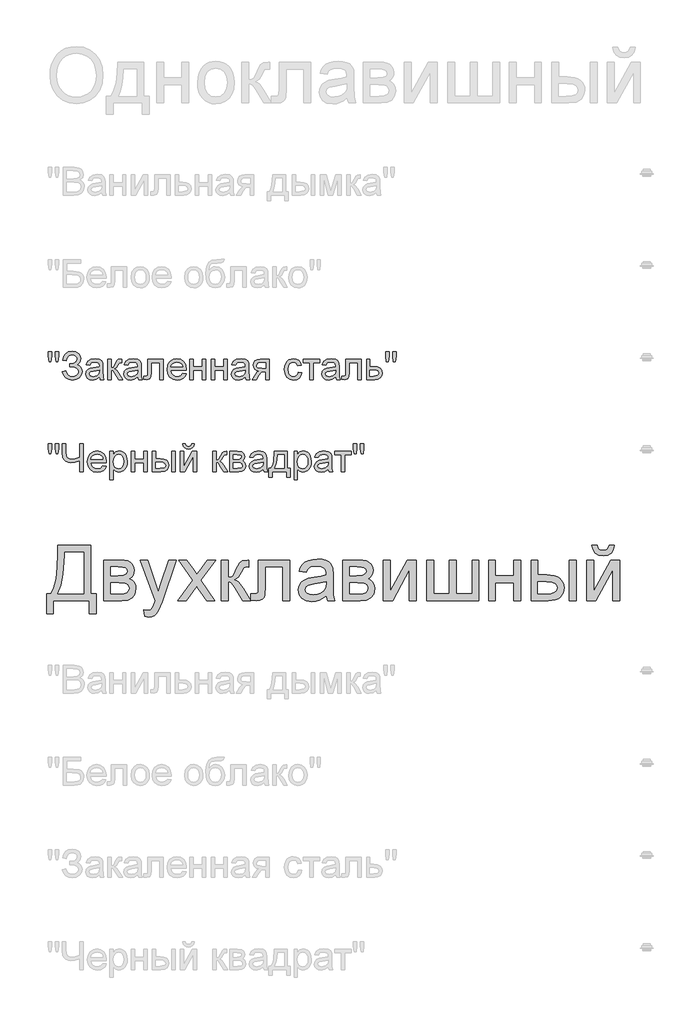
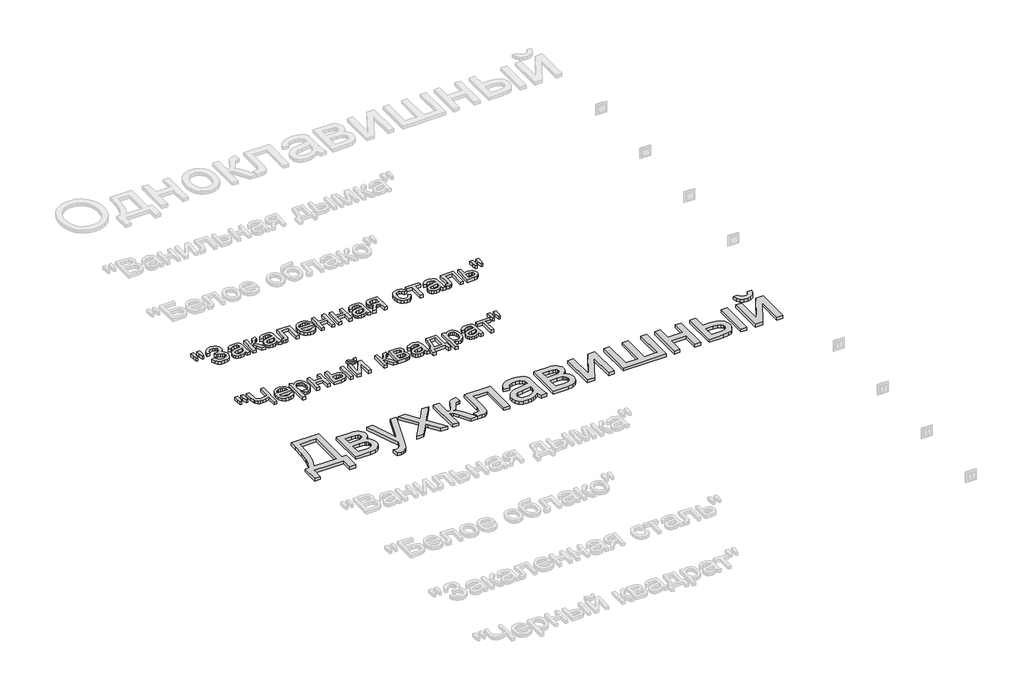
# One storey, part 135 of 168: 3 proxies.
"""IFC4 building model written with IfcOpenShell, lengths in millimetres."""

from ifc_helpers import new_model, si_unit, origin, origin_with_axes, place, context, project, spatial, polyline, outline, extrude, element, save

model = new_model("IFC4")

# Units and contexts
model_context = context("Model", 3, world=origin())
ifc_project = project(units=[si_unit("LENGTHUNIT", "METRE", prefix="MILLI")], contexts=[model_context])

# Site, building, storey
site = spatial("IfcSite", under=ifc_project)
building = spatial("IfcBuilding", under=site)
storey = spatial("IfcBuildingStorey", under=building, Name="Этаж 01", Elevation=0.0)

# Proxies
placement = place(None, origin())
element("IfcBuildingElementProxy", 1, Name="300 мм Arial 2", ObjectType="300 мм Arial 2", at=placement, inside=storey, context=model_context, shape_type="SweptSolid", body=[
    extrude(outline(polyline([(63627.3478389, -23247.0367511), (63806.2856413, -23247.0367511), (63806.2856413, -23510.7345653), (63834.5389786, -23510.7345653), (63834.5389786, -23619.0390246), (63796.8678623, -23619.0390246), (63796.8678623, -23548.4056816), (63603.8033912, -23548.4056816), (63603.8033912, -23619.0390246), (63566.1322749, -23619.0390246), (63566.1322749, -23510.7345653), (63589.6767226, -23510.7345653), (63606.157836, -23476.5629264), (63617.9300598, -23428.4945452), (63624.9933941, -23366.5294217), (63627.3478389, -23290.6675557), (63627.3478389, -23247.0367511)]), holes=[polyline([(63768.614525, -23284.7078674), (63665.0189552, -23284.7078674), (63665.0189552, -23299.8646056), (63657.3670097, -23403.0922935), (63646.0362442, -23462.744359), (63627.3478389, -23510.7345653), (63768.614525, -23510.7345653), (63768.614525, -23284.7078674)])]), origin_with_axes(), (0.0, 0.0, 1.0), 20.0),
    extrude(outline(polyline([(63876.9189844, -23327.0878733), (63959.9131625, -23327.0878733), (63986.5938042, -23328.3478691), (64005.4201653, -23332.1278566), (64019.2709224, -23339.2647673), (64031.0247522, -23350.5955328), (64039.0537767, -23365.3567978), (64041.7301183, -23382.7852073), (64040.1114375, -23396.8291025), (64035.2553951, -23408.9416172), (64027.1435971, -23419.1779337), (64015.7576494, -23427.5932344), (64029.700377, -23435.4199238), (64041.0679307, -23448.0106851), (64048.6279057, -23464.3722368), (64051.1478973, -23483.5112976), (64044.7651447, -23512.2244873), (64029.5900124, -23532.439603), (64005.5673181, -23544.4141619), (63972.6418796, -23548.4056816), (63876.9189844, -23548.4056816), (63876.9189844, -23327.0878733)]), holes=[polyline([(63914.5901007, -23411.847885), (63951.8197586, -23411.847885), (63982.5379052, -23409.9348986), (63997.4739142, -23402.2829531), (64002.41273, -23395.9553828), (64004.0590019, -23388.4505901), (64001.1711283, -23377.2117951), (63992.5075073, -23369.9829139), (63976.8541284, -23366.0649707), (63952.996981, -23364.7589896), (63914.5901007, -23364.7589896), (63914.5901007, -23411.847885)]), polyline([(63914.5901007, -23510.7345653), (63960.7960793, -23510.7345653), (63985.9776019, -23509.033111), (64001.7781336, -23503.9287484), (64010.2578136, -23494.648925), (64013.476781, -23480.4210889), (64011.8672973, -23470.9941127), (64007.0388461, -23462.2845065), (63999.6260239, -23455.4694925), (63990.2634271, -23451.7262932), (63957.1172594, -23449.5190013), (63914.5901007, -23449.5190013), (63914.5901007, -23510.7345653)])]), origin_with_axes(), (0.0, 0.0, 1.0), 20.0),
    extrude(outline(polyline([(64098.2367927, -23633.1656933), (64093.5279032, -23596.8925285), (64112.6577669, -23600.2034665), (64130.5368319, -23596.0463999), (64141.4997153, -23584.4581171), (64151.8004112, -23556.7198147), (64154.7434672, -23547.5963412), (64074.692345, -23327.0878733), (64114.4236005, -23327.0878733), (64156.8771827, -23449.9604597), (64171.666039, -23499.1094942), (64186.4548952, -23455.6994188), (64230.0856998, -23327.0878733), (64269.5226497, -23327.0878733), (64192.4881599, -23553.7031823), (64172.4753793, -23602.8522169), (64162.2298658, -23618.5423839), (64150.6231888, -23629.4132969), (64137.1403137, -23635.7592613), (64121.2662056, -23637.8745828), (64098.2367927, -23633.1656933)])), origin_with_axes(), (0.0, 0.0, 1.0), 20.0),
    extrude(outline(polyline([(64277.1745952, -23548.4056816), (64357.6671757, -23437.1581662), (64281.8834847, -23327.0878733), (64327.2065465, -23327.0878733), (64363.7740168, -23380.0628806), (64380.8437414, -23405.0788562), (64395.6325976, -23384.6246173), (64437.2768395, -23327.0878733), (64482.5999013, -23327.0878733), (64402.9902375, -23437.1581662), (64479.6568453, -23548.4056816), (64434.3337835, -23548.4056816), (64388.2013813, -23481.5247348), (64379.7400954, -23469.3110526), (64322.497657, -23548.4056816), (64277.1745952, -23548.4056816)])), origin_with_axes(), (0.0, 0.0, 1.0), 20.0),
    extrude(outline(polyline([(64715.1013222, -23327.0878733), (64884.6213456, -23327.0878733), (64884.6213456, -23548.1849524), (64846.9502293, -23548.1849524), (64846.9502293, -23364.7589896), (64752.7724385, -23364.7589896), (64752.7724385, -23470.3411222), (64750.2340528, -23519.0486984), (64745.479178, -23530.0759612), (64736.2913251, -23539.6133019), (64722.3485975, -23546.2075866), (64703.3290984, -23548.4056816), (64672.7213164, -23546.4926952), (64672.7213164, -23510.7345653), (64689.5703118, -23510.7345653), (64706.6032481, -23508.4169087), (64713.409065, -23501.0592688), (64715.1013222, -23468.2074066), (64715.1013222, -23327.0878733)])), origin_with_axes(), (0.0, 0.0, 1.0), 20.0),
    extrude(outline(polyline([(64512.6190721, -23327.0878733), (64550.2901884, -23327.0878733), (64550.2901884, -23421.265664), (64565.6124735, -23419.5734069), (64575.5268933, -23414.4966353), (64584.3008788, -23401.2528835), (64596.2018614, -23375.0596854), (64613.3819506, -23341.0306009), (64628.5386888, -23329.9573528), (64656.0930502, -23327.0878733), (64663.3035373, -23327.0878733), (64663.3035373, -23364.9797188), (64653.1499942, -23364.7589896), (64634.7558945, -23368.7321151), (64621.8064482, -23393.5273616), (64606.6129218, -23420.345959), (64585.3125543, -23433.4793463), (64597.2503251, -23438.7814455), (64609.0777312, -23448.1394438), (64632.4014497, -23479.0231373), (64672.7213164, -23548.4056816), (64629.8998521, -23548.4056816), (64590.3893259, -23480.4946653), (64570.5236981, -23451.7630814), (64561.2346777, -23446.5483542), (64550.2901884, -23444.8101117), (64550.2901884, -23548.4056816), (64512.6190721, -23548.4056816), (64512.6190721, -23327.0878733)])), origin_with_axes(), (0.0, 0.0, 1.0), 20.0),
    extrude(outline(polyline([(65082.3947062, -23520.1523443), (65064.3960796, -23535.584994), (65045.8640241, -23545.6833548), (65026.3754754, -23551.256767), (65005.5073692, -23553.1145711), (64974.0258675, -23548.6448049), (64950.8033165, -23535.2355061), (64936.4835099, -23514.8732377), (64931.710241, -23489.5445623), (64933.5128628, -23473.9279716), (64938.9207281, -23459.7461207), (64947.2624523, -23447.6060149), (64957.8666508, -23438.1146594), (64984.2437899, -23425.7538244), (65016.8381347, -23420.0884417), (65055.3553796, -23414.1287533), (65082.173977, -23407.1389954), (65082.3947062, -23398.7512859), (65079.8011381, -23381.9390788), (65072.0204339, -23370.9394071), (65054.6196156, -23362.7724268), (65030.3761921, -23360.0501), (65007.9353904, -23361.8619189), (64992.2636174, -23367.2973753), (64981.5766454, -23377.3497509), (64974.0902468, -23393.0123268), (64936.4191305, -23388.3034373), (64942.958233, -23367.7020455), (64952.7163029, -23351.5152378), (64966.6038482, -23339.1360086), (64985.5313769, -23329.9573528), (65008.6803514, -23324.273576), (65035.2322344, -23322.3789837), (65060.6988655, -23324.0528468), (65080.88639, -23329.074436), (65096.1075076, -23336.625214), (65106.6749179, -23345.8866432), (65113.6830699, -23357.3369703), (65118.2264125, -23371.4544419), (65120.0658225, -23404.4166687), (65120.0658225, -23451.2848348), (65121.9788089, -23516.7310418), (65129.4836016, -23548.4056816), (65091.8124853, -23548.4056816), (65082.3947062, -23520.1523443)]), holes=[polyline([(65082.3947062, -23444.8101117), (65021.6206006, -23456.3616064), (64989.2101968, -23462.4684475), (64974.5317052, -23472.4012614), (64969.3813573, -23486.895812), (64972.1864575, -23498.0978187), (64980.6017581, -23507.2764745), (64994.4433182, -23513.4017097), (65013.5271967, -23515.4434548), (65033.7607064, -23513.1901776), (65051.6397714, -23506.4303459), (65066.134322, -23496.4699409), (65076.2142887, -23484.6149436), (65080.6840549, -23472.4012614), (65082.173977, -23455.4786896), (65082.3947062, -23444.8101117)])]), origin_with_axes(), (0.0, 0.0, 1.0), 20.0),
    extrude(outline(polyline([(65171.8636074, -23327.0878733), (65254.8577855, -23327.0878733), (65281.5384272, -23328.3478691), (65300.3647884, -23332.1278566), (65314.2155455, -23339.2647673), (65325.9693752, -23350.5955328), (65333.9983998, -23365.3567978), (65336.6747413, -23382.7852073), (65335.0560605, -23396.8291025), (65330.2000182, -23408.9416172), (65322.0882202, -23419.1779337), (65310.7022724, -23427.5932344), (65324.645, -23435.4199238), (65336.0125537, -23448.0106851), (65343.5725287, -23464.3722368), (65346.0925204, -23483.5112976), (65339.7097677, -23512.2244873), (65324.5346354, -23532.439603), (65300.5119412, -23544.4141619), (65267.5865026, -23548.4056816), (65171.8636074, -23548.4056816), (65171.8636074, -23327.0878733)]), holes=[polyline([(65209.5347237, -23510.7345653), (65255.7407023, -23510.7345653), (65280.9222249, -23509.033111), (65296.7227566, -23503.9287484), (65305.2024366, -23494.648925), (65308.421404, -23480.4210889), (65306.8119203, -23470.9941127), (65301.9834691, -23462.2845065), (65294.5706469, -23455.4694925), (65285.2080502, -23451.7262932), (65252.0618824, -23449.5190013), (65209.5347237, -23449.5190013), (65209.5347237, -23510.7345653)]), polyline([(65209.5347237, -23411.847885), (65246.7643817, -23411.847885), (65277.4825283, -23409.9348986), (65292.4185373, -23402.2829531), (65297.357353, -23395.9553828), (65299.003625, -23388.4505901), (65296.1157513, -23377.2117951), (65287.4521303, -23369.9829139), (65271.7987514, -23366.0649707), (65247.941604, -23364.7589896), (65209.5347237, -23364.7589896), (65209.5347237, -23411.847885)])]), origin_with_axes(), (0.0, 0.0, 1.0), 20.0),
    extrude(outline(polyline([(65393.1814157, -23327.0878733), (65430.852532, -23327.0878733), (65430.852532, -23495.8721327), (65523.411642, -23327.0878733), (65572.1192182, -23327.0878733), (65572.1192182, -23548.4056816), (65534.4481019, -23548.4056816), (65534.4481019, -23380.6514918), (65442.4776031, -23548.4056816), (65393.1814157, -23548.4056816), (65393.1814157, -23327.0878733)])), origin_with_axes(), (0.0, 0.0, 1.0), 20.0),
    extrude(outline(polyline([(65628.6258926, -23327.0878733), (65666.297009, -23327.0878733), (65666.297009, -23510.7345653), (65751.0570206, -23510.7345653), (65751.0570206, -23327.0878733), (65788.728137, -23327.0878733), (65788.728137, -23510.7345653), (65873.4881486, -23510.7345653), (65873.4881486, -23327.0878733), (65911.1592649, -23327.0878733), (65911.1592649, -23548.4056816), (65628.6258926, -23548.4056816), (65628.6258926, -23327.0878733)])), origin_with_axes(), (0.0, 0.0, 1.0), 20.0),
    extrude(outline(polyline([(65962.9570499, -23327.0878733), (66000.6281662, -23327.0878733), (66000.6281662, -23411.847885), (66099.5148465, -23411.847885), (66099.5148465, -23327.0878733), (66137.1859628, -23327.0878733), (66137.1859628, -23548.4056816), (66099.5148465, -23548.4056816), (66099.5148465, -23449.5190013), (66000.6281662, -23449.5190013), (66000.6281662, -23548.4056816), (65962.9570499, -23548.4056816), (65962.9570499, -23327.0878733)])), origin_with_axes(), (0.0, 0.0, 1.0), 20.0),
    extrude(outline(polyline([(66400.8837769, -23327.0878733), (66438.5548932, -23327.0878733), (66438.5548932, -23548.4056816), (66400.8837769, -23548.4056816), (66400.8837769, -23327.0878733)])), origin_with_axes(), (0.0, 0.0, 1.0), 20.0),
    extrude(outline(polyline([(66193.6926372, -23327.0878733), (66231.3637535, -23327.0878733), (66231.3637535, -23407.1389954), (66277.9376141, -23407.1389954), (66318.1931015, -23411.857082), (66334.4097997, -23417.7546902), (66348.0191342, -23426.0113418), (66358.7865804, -23436.3419281), (66366.4776133, -23448.4613405), (66371.0922331, -23462.3695792), (66372.6304397, -23478.0666441), (66367.4708947, -23505.0231973), (66351.9922598, -23527.7675016), (66340.1303647, -23536.7967054), (66325.1828594, -23543.2461366), (66286.031018, -23548.4056816), (66193.6926372, -23548.4056816), (66193.6926372, -23327.0878733)]), holes=[polyline([(66231.3637535, -23510.7345653), (66270.0649394, -23510.7345653), (66300.0657161, -23508.7571995), (66320.0233144, -23502.8251024), (66331.2253211, -23492.6991504), (66334.9593234, -23478.1402205), (66332.1910114, -23465.8345678), (66323.8860753, -23454.9636548), (66306.126572, -23447.3484975), (66274.9945582, -23444.8101117), (66231.3637535, -23444.8101117), (66231.3637535, -23510.7345653)])]), origin_with_axes(), (0.0, 0.0, 1.0), 20.0),
    extrude(outline(polyline([(66495.0615677, -23327.0878733), (66532.732684, -23327.0878733), (66532.732684, -23495.8721327), (66625.291794, -23327.0878733), (66673.9993701, -23327.0878733), (66673.9993701, -23548.4056816), (66636.3282538, -23548.4056816), (66636.3282538, -23380.6514918), (66544.357755, -23548.4056816), (66495.0615677, -23548.4056816), (66495.0615677, -23327.0878733)])), origin_with_axes(), (0.0, 0.0, 1.0), 20.0),
    extrude(outline(polyline([(66617.4926957, -23247.0367511), (66645.7460329, -23247.0367511), (66639.6667829, -23271.160613), (66627.4622978, -23288.9385104), (66609.6844003, -23299.8921968), (66586.8849137, -23303.5434256), (66562.1448495, -23299.9197879), (66542.9598035, -23289.048875), (66529.8448103, -23271.2985687), (66523.3149049, -23247.0367511), (66551.5682421, -23247.0367511), (66555.5413677, -23259.4435714), (66562.1632436, -23268.2635422), (66571.4706581, -23273.5334518), (66583.5003993, -23275.2900883), (66597.075245, -23273.5886341), (66606.8976942, -23268.4842714), (66613.5195701, -23259.7194829), (66617.4926957, -23247.0367511)])), origin_with_axes(), (0.0, 0.0, 1.0), 20.0),
])
element("IfcBuildingElementProxy", 2, Name="150", ObjectType="150", at=placement, inside=storey, context=model_context, shape_type="SweptSolid", body=[
    extrude(outline(polyline([(63580.1485789, -22251.873446), (63575.550054, -22222.7739802), (63575.550054, -22197.7212163), (63594.3856121, -22197.7212163), (63594.3856121, -22222.7739802), (63590.2653338, -22251.873446), (63580.1485789, -22251.873446)])), origin_with_axes(), (0.0, 0.0, 1.0), 20.0),
    extrude(outline(polyline([(63617.7093306, -22251.873446), (63613.2211703, -22222.7739802), (63613.2211703, -22197.7212163), (63632.0567284, -22197.7212163), (63632.0567284, -22222.7739802), (63627.6421445, -22251.873446), (63617.7093306, -22251.873446)])), origin_with_axes(), (0.0, 0.0, 1.0), 20.0),
    extrude(outline(polyline([(63650.8922866, -22306.0256757), (63669.7278447, -22301.3167862), (63681.2977335, -22321.7158428), (63692.2284273, -22329.3723868), (63706.2217387, -22331.9245682), (63720.398991, -22330.0069833), (63731.2193202, -22324.2542286), (63738.0757209, -22315.7883442), (63740.3611878, -22305.7313701), (63737.8641888, -22295.1961495), (63730.3731916, -22287.0613589), (63718.5779752, -22281.8604272), (63703.1683181, -22280.1267833), (63693.2722924, -22280.1267833), (63693.2722924, -22261.2912251), (63714.591054, -22259.7645148), (63727.6324708, -22251.9654165), (63733.2978535, -22237.7099892), (63731.4124583, -22228.8394346), (63725.7562726, -22221.2104817), (63716.8811195, -22215.9543677), (63705.3388219, -22214.2023297), (63686.1169876, -22219.591801), (63675.117316, -22233.8840165), (63672.0822895, -22247.1645565), (63653.2467313, -22242.455667), (63659.0983543, -22221.8542752), (63669.7002536, -22207.1389954), (63685.0524291, -22198.3098275), (63705.1548809, -22195.3667716), (63724.5468605, -22198.4247907), (63739.4598769, -22207.5988479), (63748.965028, -22220.8655924), (63752.1334117, -22236.201673), (63747.2037929, -22254.8440931), (63732.4149367, -22268.7592296), (63742.8903765, -22273.5830823), (63751.5080123, -22281.7270699), (63757.2745625, -22292.4922168), (63759.196746, -22305.1795471), (63755.508729, -22323.0172254), (63744.444678, -22337.6819214), (63727.2921799, -22347.4905751), (63705.3388219, -22350.7601263), (63686.2365493, -22347.9642232), (63670.7947025, -22339.5765137), (63659.0132816, -22325.5969979), (63650.8922866, -22306.0256757)])), origin_with_axes(), (0.0, 0.0, 1.0), 20.0),
    extrude(outline(polyline([(63853.3745367, -22334.279013), (63835.1091957, -22347.0445182), (63814.9308682, -22350.7601263), (63799.1901174, -22348.5252432), (63787.5788419, -22341.8205939), (63780.4189386, -22331.6394596), (63778.0323041, -22318.975122), (63781.6375477, -22304.0759012), (63791.110509, -22293.2601705), (63804.2990786, -22287.079753), (63820.596251, -22284.2470616), (63853.2641721, -22277.7723385), (63853.3745367, -22273.5784838), (63852.0777527, -22265.1723802), (63848.1874006, -22259.6725443), (63839.4869914, -22255.5890542), (63827.3652797, -22254.2278908), (63808.3089923, -22257.8515285), (63799.222307, -22270.7090042), (63780.3867489, -22268.3545594), (63788.5353351, -22249.9604597), (63804.9428721, -22239.1815172), (63829.7933008, -22235.3923327), (63852.6203786, -22238.7400588), (63865.5146426, -22247.1461624), (63871.2903899, -22259.9300617), (63872.2100949, -22276.4111751), (63872.2100949, -22299.8452582), (63873.1665881, -22332.5683617), (63876.9189844, -22348.4056816), (63858.0834263, -22348.4056816), (63853.3745367, -22334.279013)]), holes=[polyline([(63853.3745367, -22296.6078966), (63822.9874839, -22302.383644), (63806.782282, -22305.4370645), (63799.4430362, -22310.4034715), (63796.8678623, -22317.6507468), (63802.4780627, -22327.841078), (63818.940782, -22331.9245682), (63837.9970693, -22327.4180137), (63850.284328, -22316.5103126), (63853.2641721, -22301.9421856), (63853.3745367, -22296.6078966)])]), origin_with_axes(), (0.0, 0.0, 1.0), 20.0),
    extrude(outline(polyline([(63898.1089873, -22237.7467774), (63916.9445455, -22237.7467774), (63916.9445455, -22284.8356728), (63929.5628979, -22281.4511584), (63939.900382, -22261.7326835), (63948.4904266, -22244.7181412), (63956.0687957, -22239.1815172), (63969.8459764, -22237.7467774), (63973.4512199, -22237.7467774), (63973.4512199, -22256.6927002), (63968.3744484, -22256.5823356), (63959.1773985, -22258.5688983), (63952.7026754, -22270.9665216), (63945.1059122, -22284.3758203), (63934.4557285, -22290.9425139), (63946.3383169, -22298.2725627), (63958.0001762, -22313.7144094), (63978.1601095, -22348.4056816), (63956.7493774, -22348.4056816), (63936.9941142, -22314.4501734), (63927.0613004, -22300.0843815), (63916.9445455, -22296.6078966), (63916.9445455, -22348.4056816), (63898.1089873, -22348.4056816), (63898.1089873, -22237.7467774)])), origin_with_axes(), (0.0, 0.0, 1.0), 20.0),
    extrude(outline(polyline([(64060.5656764, -22334.279013), (64042.3003353, -22347.0445182), (64022.1220079, -22350.7601263), (64006.381257, -22348.5252432), (63994.7699816, -22341.8205939), (63987.6100782, -22331.6394596), (63985.2234438, -22318.975122), (63988.8286873, -22304.0759012), (63998.3016487, -22293.2601705), (64011.4902183, -22287.079753), (64027.7873906, -22284.2470616), (64060.4553118, -22277.7723385), (64060.5656764, -22273.5784838), (64059.2688924, -22265.1723802), (64055.3785403, -22259.6725443), (64046.6781311, -22255.5890542), (64034.5564193, -22254.2278908), (64015.500132, -22257.8515285), (64006.4134467, -22270.7090042), (63987.5778886, -22268.3545594), (63995.7264748, -22249.9604597), (64012.1340117, -22239.1815172), (64036.9844405, -22235.3923327), (64059.8115183, -22238.7400588), (64072.7057822, -22247.1461624), (64078.4815296, -22259.9300617), (64079.4012346, -22276.4111751), (64079.4012346, -22299.8452582), (64080.3577277, -22332.5683617), (64084.1101241, -22348.4056816), (64065.2745659, -22348.4056816), (64060.5656764, -22334.279013)]), holes=[polyline([(64060.5656764, -22296.6078966), (64030.1786236, -22302.383644), (64013.9734217, -22305.4370645), (64006.6341759, -22310.4034715), (64004.0590019, -22317.6507468), (64009.6692024, -22327.841078), (64026.1319217, -22331.9245682), (64045.188209, -22327.4180137), (64057.4754676, -22316.5103126), (64060.4553118, -22301.9421856), (64060.5656764, -22296.6078966)])]), origin_with_axes(), (0.0, 0.0, 1.0), 20.0),
    extrude(outline(polyline([(64114.7179061, -22237.7467774), (64199.4779178, -22237.7467774), (64199.4779178, -22348.295317), (64180.6423596, -22348.295317), (64180.6423596, -22256.5823356), (64133.5534643, -22256.5823356), (64133.5534643, -22309.3734019), (64132.2842714, -22333.72719), (64125.3129076, -22344.0094917), (64108.8317942, -22348.4056816), (64093.5279032, -22347.4491884), (64093.5279032, -22329.5701234), (64101.9524009, -22329.5701234), (64110.4688691, -22328.4112951), (64113.8717775, -22324.7324752), (64114.7179061, -22308.3065441), (64114.7179061, -22237.7467774)])), origin_with_axes(), (0.0, 0.0, 1.0), 20.0),
    extrude(outline(polyline([(64305.2072032, -22315.4434548), (64323.6748794, -22317.7978996), (64317.0208138, -22331.713036), (64306.4028197, -22342.1148995), (64292.0600204, -22348.5988196), (64274.2315392, -22350.7601263), (64252.1310283, -22347.0307226), (64235.1256831, -22335.8425114), (64224.2823613, -22317.9220597), (64220.6679207, -22293.9959345), (64224.3191495, -22269.2650674), (64235.2728359, -22250.7698), (64252.0482549, -22239.2366995), (64273.1646814, -22235.3923327), (64293.6235189, -22239.2275025), (64309.971275, -22250.7330118), (64320.6904367, -22269.191491), (64324.2634906, -22293.8855699), (64324.153126, -22298.9623414), (64239.5034789, -22298.9623414), (64242.763833, -22313.0614189), (64250.3376036, -22323.4264941), (64261.2682974, -22329.8000497), (64274.5994212, -22331.9245682), (64293.0670974, -22327.9882308), (64305.2072032, -22315.4434548)]), holes=[polyline([(64239.5034789, -22280.1267833), (64305.4279324, -22280.1267833), (64302.8803496, -22270.1755753), (64297.8863515, -22263.0570587), (64286.9050739, -22256.4351828), (64273.091105, -22254.2278908), (64260.3945777, -22255.9891259), (64249.8961452, -22261.272831), (64242.5982861, -22269.5087892), (64239.5034789, -22280.1267833)])]), origin_with_axes(), (0.0, 0.0, 1.0), 20.0),
    extrude(outline(polyline([(64343.0990487, -22237.7467774), (64361.9346069, -22237.7467774), (64361.9346069, -22280.1267833), (64411.377947, -22280.1267833), (64411.377947, -22237.7467774), (64430.2135052, -22237.7467774), (64430.2135052, -22348.4056816), (64411.377947, -22348.4056816), (64411.377947, -22298.9623414), (64361.9346069, -22298.9623414), (64361.9346069, -22348.4056816), (64343.0990487, -22348.4056816), (64343.0990487, -22237.7467774)])), origin_with_axes(), (0.0, 0.0, 1.0), 20.0),
    extrude(outline(polyline([(64458.4668424, -22237.7467774), (64477.3024005, -22237.7467774), (64477.3024005, -22280.1267833), (64526.7457407, -22280.1267833), (64526.7457407, -22237.7467774), (64545.5812988, -22237.7467774), (64545.5812988, -22348.4056816), (64526.7457407, -22348.4056816), (64526.7457407, -22298.9623414), (64477.3024005, -22298.9623414), (64477.3024005, -22348.4056816), (64458.4668424, -22348.4056816), (64458.4668424, -22237.7467774)])), origin_with_axes(), (0.0, 0.0, 1.0), 20.0),
    extrude(outline(polyline([(64644.4679792, -22334.279013), (64626.2026381, -22347.0445182), (64606.0243107, -22350.7601263), (64590.2835598, -22348.5252432), (64578.6722843, -22341.8205939), (64571.512381, -22331.6394596), (64569.1257465, -22318.975122), (64572.7309901, -22304.0759012), (64582.2039515, -22293.2601705), (64595.392521, -22287.079753), (64611.6896934, -22284.2470616), (64644.3576146, -22277.7723385), (64644.4679792, -22273.5784838), (64643.1711951, -22265.1723802), (64639.280843, -22259.6725443), (64630.5804338, -22255.5890542), (64618.4587221, -22254.2278908), (64599.4024347, -22257.8515285), (64590.3157495, -22270.7090042), (64571.4801913, -22268.3545594), (64579.6287775, -22249.9604597), (64596.0363145, -22239.1815172), (64620.8867433, -22235.3923327), (64643.7138211, -22238.7400588), (64656.608085, -22247.1461624), (64662.3838323, -22259.9300617), (64663.3035373, -22276.4111751), (64663.3035373, -22299.8452582), (64664.2600305, -22332.5683617), (64668.0124268, -22348.4056816), (64649.1768687, -22348.4056816), (64644.4679792, -22334.279013)]), holes=[polyline([(64644.4679792, -22296.6078966), (64614.0809264, -22302.383644), (64597.8757245, -22305.4370645), (64590.5364787, -22310.4034715), (64587.9613047, -22317.6507468), (64593.5715051, -22327.841078), (64610.0342244, -22331.9245682), (64629.0905118, -22327.4180137), (64641.3777704, -22316.5103126), (64644.3576146, -22301.9421856), (64644.4679792, -22296.6078966)])]), origin_with_axes(), (0.0, 0.0, 1.0), 20.0),
    extrude(outline(polyline([(64773.9624415, -22237.7467774), (64773.9624415, -22348.4056816), (64755.1268833, -22348.4056816), (64755.1268833, -22306.0256757), (64744.8629756, -22306.0256757), (64730.8834598, -22308.4169087), (64717.7500726, -22324.4933519), (64702.7404872, -22348.4056816), (64680.9618731, -22348.4056816), (64699.8710076, -22318.1657816), (64708.2219289, -22307.3132627), (64715.9106626, -22302.4940086), (64703.0347928, -22298.5484742), (64693.9848957, -22291.0528785), (64688.6322127, -22281.0832765), (64686.847985, -22269.7157228), (64689.2852032, -22256.8214589), (64696.5968579, -22246.6127335), (64708.5254316, -22239.9632664), (64724.8134069, -22237.7467774), (64773.9624415, -22237.7467774)]), holes=[polyline([(64755.1268833, -22256.5823356), (64730.2948486, -22256.5823356), (64717.4695626, -22257.672186), (64710.1900976, -22260.9417372), (64705.6835431, -22271.1504626), (64707.3436107, -22278.32876), (64712.3238132, -22283.3089625), (64735.8498668, -22287.1901176), (64755.1268833, -22287.1901176), (64755.1268833, -22256.5823356)])]), origin_with_axes(), (0.0, 0.0, 1.0), 20.0),
    extrude(outline(polyline([(64931.710241, -22308.3801205), (64950.5457991, -22310.7345653), (64945.2942837, -22327.4869916), (64935.4258491, -22340.1467308), (64921.8693976, -22348.1067774), (64905.5538311, -22350.7601263), (64885.518058, -22347.0583138), (64869.8508835, -22335.952876), (64859.7387272, -22317.9312568), (64856.3680084, -22293.4808997), (64857.8073467, -22276.7192763), (64862.1253616, -22262.192536), (64869.391031, -22250.4616989), (64879.6733328, -22242.087785), (64891.974387, -22237.0661957), (64905.2963137, -22235.3923327), (64921.2118085, -22237.6915951), (64933.9359271, -22244.5893825), (64943.0639991, -22255.7178129), (64948.1913544, -22270.7090042), (64929.3557962, -22273.063449), (64920.6185988, -22258.9551744), (64905.4434665, -22254.2278908), (64893.271171, -22256.5547444), (64883.6096701, -22263.5353053), (64877.3050924, -22275.5466524), (64875.2035665, -22292.9658649), (64877.2591072, -22310.6196021), (64883.4257291, -22322.672336), (64892.9124861, -22329.6115101), (64904.9284317, -22331.9245682), (64914.6819031, -22330.4806314), (64922.678738, -22326.1488209), (64928.4958721, -22318.8187721), (64931.710241, -22308.3801205)])), origin_with_axes(), (0.0, 0.0, 1.0), 20.0),
    extrude(outline(polyline([(64957.6091334, -22237.7467774), (65047.0780347, -22237.7467774), (65047.0780347, -22256.5823356), (65011.7613631, -22256.5823356), (65011.7613631, -22348.4056816), (64992.925805, -22348.4056816), (64992.925805, -22256.5823356), (64957.6091334, -22256.5823356), (64957.6091334, -22237.7467774)])), origin_with_axes(), (0.0, 0.0, 1.0), 20.0),
    extrude(outline(polyline([(65134.1924911, -22334.279013), (65115.9271501, -22347.0445182), (65095.7488226, -22350.7601263), (65080.0080718, -22348.5252432), (65068.3967963, -22341.8205939), (65061.236893, -22331.6394596), (65058.8502585, -22318.975122), (65062.4555021, -22304.0759012), (65071.9284634, -22293.2601705), (65085.117033, -22287.079753), (65101.4142054, -22284.2470616), (65134.0821265, -22277.7723385), (65134.1924911, -22273.5784838), (65132.8957071, -22265.1723802), (65129.005355, -22259.6725443), (65120.3049458, -22255.5890542), (65108.1832341, -22254.2278908), (65089.1269467, -22257.8515285), (65080.0402614, -22270.7090042), (65061.2047033, -22268.3545594), (65069.3532895, -22249.9604597), (65085.7608265, -22239.1815172), (65110.6112552, -22235.3923327), (65133.438333, -22238.7400588), (65146.332597, -22247.1461624), (65152.1083443, -22259.9300617), (65153.0280493, -22276.4111751), (65153.0280493, -22299.8452582), (65153.9845425, -22332.5683617), (65157.7369388, -22348.4056816), (65138.9013807, -22348.4056816), (65134.1924911, -22334.279013)]), holes=[polyline([(65134.1924911, -22296.6078966), (65103.8054383, -22302.383644), (65087.6002364, -22305.4370645), (65080.2609906, -22310.4034715), (65077.6858167, -22317.6507468), (65083.2960171, -22327.841078), (65099.7587364, -22331.9245682), (65118.8150237, -22327.4180137), (65131.1022824, -22316.5103126), (65134.0821265, -22301.9421856), (65134.1924911, -22296.6078966)])]), origin_with_axes(), (0.0, 0.0, 1.0), 20.0),
    extrude(outline(polyline([(65188.3447208, -22237.7467774), (65273.1047325, -22237.7467774), (65273.1047325, -22348.295317), (65254.2691744, -22348.295317), (65254.2691744, -22256.5823356), (65207.180279, -22256.5823356), (65207.180279, -22309.3734019), (65205.9110861, -22333.72719), (65198.9397223, -22344.0094917), (65182.4586089, -22348.4056816), (65167.1547179, -22347.4491884), (65167.1547179, -22329.5701234), (65175.5792156, -22329.5701234), (65184.0956838, -22328.4112951), (65187.4985922, -22324.7324752), (65188.3447208, -22308.3065441), (65188.3447208, -22237.7467774)])), origin_with_axes(), (0.0, 0.0, 1.0), 20.0),
    extrude(outline(polyline([(65301.3580697, -22237.7467774), (65320.1936279, -22237.7467774), (65320.1936279, -22277.7723385), (65341.8986656, -22277.7723385), (65360.7158297, -22280.1313818), (65374.6401632, -22287.2085117), (65383.2486019, -22298.433511), (65386.1180814, -22313.2361628), (65383.6762647, -22326.7144394), (65376.3508145, -22338.0865916), (65363.6542871, -22345.8259091), (65345.099239, -22348.4056816), (65301.3580697, -22348.4056816), (65301.3580697, -22237.7467774)]), holes=[polyline([(65320.1936279, -22329.5701234), (65337.7783873, -22329.5701234), (65360.4951005, -22325.615392), (65365.5856676, -22320.552416), (65367.2825233, -22313.272951), (65362.260934, -22301.6846682), (65354.1905228, -22297.8770895), (65340.0224674, -22296.6078966), (65320.1936279, -22296.6078966), (65320.1936279, -22329.5701234)])]), origin_with_axes(), (0.0, 0.0, 1.0), 20.0),
    extrude(outline(polyline([(65409.5521645, -22251.873446), (65404.9536396, -22222.7739802), (65404.9536396, -22197.7212163), (65423.7891977, -22197.7212163), (65423.7891977, -22222.7739802), (65419.6689194, -22251.873446), (65409.5521645, -22251.873446)])), origin_with_axes(), (0.0, 0.0, 1.0), 20.0),
    extrude(outline(polyline([(65447.1129162, -22251.873446), (65442.6247559, -22222.7739802), (65442.6247559, -22197.7212163), (65461.460314, -22197.7212163), (65461.460314, -22222.7739802), (65457.0457301, -22251.873446), (65447.1129162, -22251.873446)])), origin_with_axes(), (0.0, 0.0, 1.0), 20.0),
])
element("IfcBuildingElementProxy", 3, Name="150", ObjectType="150", at=placement, inside=storey, context=model_context, shape_type="SweptSolid", body=[
    extrude(outline(polyline([(63580.1485789, -22751.873446), (63575.550054, -22722.7739802), (63575.550054, -22697.7212163), (63594.3856121, -22697.7212163), (63594.3856121, -22722.7739802), (63590.2653338, -22751.873446), (63580.1485789, -22751.873446)])), origin_with_axes(), (0.0, 0.0, 1.0), 20.0),
    extrude(outline(polyline([(63617.7093306, -22751.873446), (63613.2211703, -22722.7739802), (63613.2211703, -22697.7212163), (63632.0567284, -22697.7212163), (63632.0567284, -22722.7739802), (63627.6421445, -22751.873446), (63617.7093306, -22751.873446)])), origin_with_axes(), (0.0, 0.0, 1.0), 20.0),
    extrude(outline(polyline([(63763.9056355, -22848.4056816), (63745.0700773, -22848.4056816), (63745.0700773, -22788.0730344), (63720.0908899, -22796.2400147), (63698.4226404, -22798.9623414), (63683.7395502, -22797.0999388), (63670.886673, -22791.512731), (63660.926268, -22783.0606422), (63654.9205944, -22772.6035965), (63650.8922866, -22742.6028198), (63650.8922866, -22697.7212163), (63669.7278447, -22697.7212163), (63669.7278447, -22740.064434), (63671.990319, -22760.4313009), (63678.7777418, -22772.3828673), (63688.7381468, -22778.1908043), (63700.5195677, -22780.1267833), (63722.2521966, -22777.7907326), (63745.0700773, -22770.7825806), (63745.0700773, -22697.7212163), (63763.9056355, -22697.7212163), (63763.9056355, -22848.4056816)])), origin_with_axes(), (0.0, 0.0, 1.0), 20.0),
    extrude(outline(polyline([(63871.9893657, -22815.4434548), (63890.4570418, -22817.7978996), (63883.8029763, -22831.713036), (63873.1849822, -22842.1148995), (63858.8421829, -22848.5988196), (63841.0137017, -22850.7601263), (63818.9131908, -22847.0307226), (63801.9078456, -22835.8425114), (63791.0645238, -22817.9220597), (63787.4500832, -22793.9959345), (63791.101312, -22769.2650674), (63802.0549984, -22750.7698), (63818.8304174, -22739.2366995), (63839.9468439, -22735.3923327), (63860.4056814, -22739.2275025), (63876.7534375, -22750.7330118), (63887.4725992, -22769.191491), (63891.045653, -22793.8855699), (63890.9352884, -22798.9623414), (63806.2856413, -22798.9623414), (63809.5459955, -22813.0614189), (63817.1197661, -22823.4264941), (63828.0504599, -22829.8000497), (63841.3815837, -22831.9245682), (63859.8492598, -22827.9882308), (63871.9893657, -22815.4434548)]), holes=[polyline([(63806.2856413, -22780.1267833), (63872.2100949, -22780.1267833), (63869.6625121, -22770.1755753), (63864.668514, -22763.0570587), (63853.6872364, -22756.4351828), (63839.8732675, -22754.2278908), (63827.1767401, -22755.9891259), (63816.6783077, -22761.272831), (63809.3804486, -22769.5087892), (63806.2856413, -22780.1267833)])]), origin_with_axes(), (0.0, 0.0, 1.0), 20.0),
    extrude(outline(polyline([(63909.8812112, -22890.7856874), (63909.8812112, -22737.7467774), (63928.7167693, -22737.7467774), (63928.7167693, -22756.2144536), (63941.739792, -22740.5978629), (63959.3245513, -22735.3923327), (63972.0624654, -22737.2133485), (63983.2000928, -22742.6763962), (63992.268384, -22751.4503817), (63998.7982894, -22763.2042115), (64004.0590019, -22792.2301009), (64002.5736784, -22808.3387338), (63998.1177077, -22822.7459124), (63990.8336442, -22834.7204713), (63980.8640422, -22843.5312451), (63969.2527667, -22848.952906), (63957.043683, -22850.7601263), (63940.6545401, -22845.9224781), (63928.7167693, -22833.6904018), (63928.7167693, -22890.7856874), (63909.8812112, -22890.7856874)]), holes=[polyline([(63928.7167693, -22793.9591463), (63930.7539159, -22810.8449299), (63936.8653555, -22822.6539419), (63945.8830629, -22829.6069116), (63956.6390128, -22831.9245682), (63967.5697066, -22829.5241382), (63976.8173402, -22822.3228481), (63983.1219179, -22810.0815747), (63985.2234438, -22792.5611947), (63983.1725017, -22775.7673816), (63977.0196753, -22763.7928227), (63968.0157635, -22756.6191238), (63957.411565, -22754.2278908), (63946.7659797, -22756.7708751), (63937.4171785, -22764.399828), (63930.8918716, -22776.8756261), (63928.7167693, -22793.9591463)])]), origin_with_axes(), (0.0, 0.0, 1.0), 20.0),
    extrude(outline(polyline([(64025.2490049, -22737.7467774), (64044.084563, -22737.7467774), (64044.084563, -22780.1267833), (64093.5279032, -22780.1267833), (64093.5279032, -22737.7467774), (64112.3634613, -22737.7467774), (64112.3634613, -22848.4056816), (64093.5279032, -22848.4056816), (64093.5279032, -22798.9623414), (64044.084563, -22798.9623414), (64044.084563, -22848.4056816), (64025.2490049, -22848.4056816), (64025.2490049, -22737.7467774)])), origin_with_axes(), (0.0, 0.0, 1.0), 20.0),
    extrude(outline(polyline([(64244.2123684, -22737.7467774), (64263.0479266, -22737.7467774), (64263.0479266, -22848.4056816), (64244.2123684, -22848.4056816), (64244.2123684, -22737.7467774)])), origin_with_axes(), (0.0, 0.0, 1.0), 20.0),
    extrude(outline(polyline([(64140.6167986, -22737.7467774), (64159.4523567, -22737.7467774), (64159.4523567, -22777.7723385), (64182.739287, -22777.7723385), (64202.8670307, -22780.1313818), (64217.780047, -22787.2085117), (64227.0092866, -22798.433511), (64230.0856998, -22813.2361628), (64227.5059273, -22826.7144394), (64219.7666098, -22838.0865916), (64206.3619096, -22845.8259091), (64186.785989, -22848.4056816), (64140.6167986, -22848.4056816), (64140.6167986, -22737.7467774)]), holes=[polyline([(64159.4523567, -22829.5701234), (64178.8029497, -22829.5701234), (64203.7821371, -22825.615392), (64209.3831405, -22820.552416), (64211.2501416, -22813.272951), (64205.7135176, -22801.6846682), (64196.8337659, -22797.8770895), (64181.267759, -22796.6078966), (64159.4523567, -22796.6078966), (64159.4523567, -22829.5701234)])]), origin_with_axes(), (0.0, 0.0, 1.0), 20.0),
    extrude(outline(polyline([(64291.3012638, -22737.7467774), (64310.1368219, -22737.7467774), (64310.1368219, -22822.1389071), (64356.4163769, -22737.7467774), (64380.770165, -22737.7467774), (64380.770165, -22848.4056816), (64361.9346069, -22848.4056816), (64361.9346069, -22764.5285867), (64315.9493575, -22848.4056816), (64291.3012638, -22848.4056816), (64291.3012638, -22737.7467774)])), origin_with_axes(), (0.0, 0.0, 1.0), 20.0),
    extrude(outline(polyline([(64352.5168278, -22697.7212163), (64366.6434964, -22697.7212163), (64363.6038714, -22709.7831473), (64357.5016288, -22718.672096), (64348.6126801, -22724.1489392), (64337.2129368, -22725.9745536), (64324.8429047, -22724.1627347), (64315.2503817, -22718.7272783), (64308.6928851, -22709.8521251), (64305.4279324, -22697.7212163), (64319.554601, -22697.7212163), (64324.8521017, -22708.3346119), (64335.5206796, -22711.847885), (64347.219327, -22708.4449765), (64352.5168278, -22697.7212163)])), origin_with_axes(), (0.0, 0.0, 1.0), 20.0),
    extrude(outline(polyline([(64467.8846215, -22737.7467774), (64486.7201796, -22737.7467774), (64486.7201796, -22784.8356728), (64499.3385321, -22781.4511584), (64509.6760161, -22761.7326835), (64518.2660607, -22744.7181412), (64525.8444298, -22739.1815172), (64539.6216105, -22737.7467774), (64543.2268541, -22737.7467774), (64543.2268541, -22756.6927002), (64538.1500825, -22756.5823356), (64528.9530327, -22758.5688983), (64522.4783096, -22770.9665216), (64514.8815464, -22784.3758203), (64504.2313626, -22790.9425139), (64516.113951, -22798.2725627), (64527.7758103, -22813.7144094), (64547.9357436, -22848.4056816), (64526.5250115, -22848.4056816), (64506.7697484, -22814.4501734), (64496.8369345, -22800.0843815), (64486.7201796, -22796.6078966), (64486.7201796, -22848.4056816), (64467.8846215, -22848.4056816), (64467.8846215, -22737.7467774)])), origin_with_axes(), (0.0, 0.0, 1.0), 20.0),
    extrude(outline(polyline([(64559.7079675, -22737.7467774), (64601.2050565, -22737.7467774), (64623.9585579, -22740.2667691), (64636.7608514, -22749.5006072), (64642.1135344, -22765.5954445), (64638.8761728, -22778.6736494), (64629.1273, -22787.999458), (64641.7824406, -22798.2081833), (64646.8224239, -22815.9584896), (64643.6310476, -22830.3150845), (64636.0434815, -22840.4226423), (64624.0321343, -22846.4099217), (64607.569415, -22848.4056816), (64559.7079675, -22848.4056816), (64559.7079675, -22737.7467774)]), holes=[polyline([(64578.5435256, -22780.1267833), (64597.1583546, -22780.1267833), (64612.5174279, -22779.1702901), (64619.9854324, -22775.3443173), (64623.2779762, -22768.4281358), (64621.8340394, -22762.8087383), (64617.5022289, -22759.1942977), (64597.7469658, -22756.5823356), (64578.5435256, -22756.5823356), (64578.5435256, -22780.1267833)]), polyline([(64578.5435256, -22829.5701234), (64601.6465149, -22829.5701234), (64622.137542, -22826.167215), (64626.377382, -22821.5273033), (64627.9868658, -22814.4133852), (64624.7678983, -22805.345094), (64616.3801888, -22800.0659874), (64599.8071049, -22798.9623414), (64578.5435256, -22798.9623414), (64578.5435256, -22829.5701234)])]), origin_with_axes(), (0.0, 0.0, 1.0), 20.0),
    extrude(outline(polyline([(64741.0002147, -22834.279013), (64722.7348736, -22847.0445182), (64702.5565462, -22850.7601263), (64686.8157953, -22848.5252432), (64675.2045198, -22841.8205939), (64668.0446165, -22831.6394596), (64665.6579821, -22818.975122), (64669.2632256, -22804.0759012), (64678.736187, -22793.2601705), (64691.9247565, -22787.079753), (64708.2219289, -22784.2470616), (64740.8898501, -22777.7723385), (64741.0002147, -22773.5784838), (64739.7034307, -22765.1723802), (64735.8130786, -22759.6725443), (64727.1126694, -22755.5890542), (64714.9909576, -22754.2278908), (64695.9346703, -22757.8515285), (64686.847985, -22770.7090042), (64668.0124268, -22768.3545594), (64676.161013, -22749.9604597), (64692.56855, -22739.1815172), (64717.4189788, -22735.3923327), (64740.2460566, -22738.7400588), (64753.1403205, -22747.1461624), (64758.9160679, -22759.9300617), (64759.8357728, -22776.4111751), (64759.8357728, -22799.8452582), (64760.792266, -22832.5683617), (64764.5446624, -22848.4056816), (64745.7091042, -22848.4056816), (64741.0002147, -22834.279013)]), holes=[polyline([(64741.0002147, -22796.6078966), (64710.6131619, -22802.383644), (64694.40796, -22805.4370645), (64687.0687142, -22810.4034715), (64684.4935402, -22817.6507468), (64690.1037407, -22827.841078), (64706.5664599, -22831.9245682), (64725.6227473, -22827.4180137), (64737.9100059, -22816.5103126), (64740.8898501, -22801.9421856), (64741.0002147, -22796.6078966)])]), origin_with_axes(), (0.0, 0.0, 1.0), 20.0),
    extrude(outline(polyline([(64802.2157787, -22737.7467774), (64872.8491218, -22737.7467774), (64872.8491218, -22829.5701234), (64886.9757904, -22829.5701234), (64886.9757904, -22879.0134636), (64868.1402322, -22879.0134636), (64868.1402322, -22848.4056816), (64790.4435548, -22848.4056816), (64790.4435548, -22879.0134636), (64771.6079967, -22879.0134636), (64771.6079967, -22829.5701234), (64783.3802205, -22829.5701234), (64791.9380754, -22814.105284), (64797.9299534, -22793.6464466), (64802.2157787, -22737.7467774)]), holes=[polyline([(64818.6968921, -22756.5823356), (64814.2823081, -22799.4957703), (64804.5702235, -22829.5701234), (64854.0135636, -22829.5701234), (64854.0135636, -22756.5823356), (64818.6968921, -22756.5823356)])]), origin_with_axes(), (0.0, 0.0, 1.0), 20.0),
    extrude(outline(polyline([(64908.1657933, -22890.7856874), (64908.1657933, -22737.7467774), (64927.0013514, -22737.7467774), (64927.0013514, -22756.2144536), (64940.0243741, -22740.5978629), (64957.6091334, -22735.3923327), (64970.3470475, -22737.2133485), (64981.4846749, -22742.6763962), (64990.5529661, -22751.4503817), (64997.0828715, -22763.2042115), (65002.3435841, -22792.2301009), (65000.8582605, -22808.3387338), (64996.4022898, -22822.7459124), (64989.1182263, -22834.7204713), (64979.1486243, -22843.5312451), (64967.5373488, -22848.952906), (64955.3282651, -22850.7601263), (64938.9391222, -22845.9224781), (64927.0013514, -22833.6904018), (64927.0013514, -22890.7856874), (64908.1657933, -22890.7856874)]), holes=[polyline([(64927.0013514, -22793.9591463), (64929.038498, -22810.8449299), (64935.1499376, -22822.6539419), (64944.167645, -22829.6069116), (64954.9235949, -22831.9245682), (64965.8542887, -22829.5241382), (64975.1019223, -22822.3228481), (64981.4065, -22810.0815747), (64983.5080259, -22792.5611947), (64981.4570838, -22775.7673816), (64975.3042574, -22763.7928227), (64966.3003456, -22756.6191238), (64955.6961471, -22754.2278908), (64945.0505618, -22756.7708751), (64935.7017606, -22764.399828), (64929.1764537, -22776.8756261), (64927.0013514, -22793.9591463)])]), origin_with_axes(), (0.0, 0.0, 1.0), 20.0),
    extrude(outline(polyline([(65094.1669301, -22834.279013), (65075.901589, -22847.0445182), (65055.7232616, -22850.7601263), (65039.9825107, -22848.5252432), (65028.3712352, -22841.8205939), (65021.2113319, -22831.6394596), (65018.8246974, -22818.975122), (65022.429941, -22804.0759012), (65031.9029024, -22793.2601705), (65045.0914719, -22787.079753), (65061.3886443, -22784.2470616), (65094.0565655, -22777.7723385), (65094.1669301, -22773.5784838), (65092.870146, -22765.1723802), (65088.9797939, -22759.6725443), (65080.2793847, -22755.5890542), (65068.157673, -22754.2278908), (65049.1013856, -22757.8515285), (65040.0147004, -22770.7090042), (65021.1791422, -22768.3545594), (65029.3277284, -22749.9604597), (65045.7352654, -22739.1815172), (65070.5856942, -22735.3923327), (65093.412772, -22738.7400588), (65106.3070359, -22747.1461624), (65112.0827832, -22759.9300617), (65113.0024882, -22776.4111751), (65113.0024882, -22799.8452582), (65113.9589814, -22832.5683617), (65117.7113777, -22848.4056816), (65098.8758196, -22848.4056816), (65094.1669301, -22834.279013)]), holes=[polyline([(65094.1669301, -22796.6078966), (65063.7798773, -22802.383644), (65047.5746754, -22805.4370645), (65040.2354296, -22810.4034715), (65037.6602556, -22817.6507468), (65043.270456, -22827.841078), (65059.7331753, -22831.9245682), (65078.7894627, -22827.4180137), (65091.0767213, -22816.5103126), (65094.0565655, -22801.9421856), (65094.1669301, -22796.6078966)])]), origin_with_axes(), (0.0, 0.0, 1.0), 20.0),
    extrude(outline(polyline([(65129.4836016, -22737.7467774), (65218.9525028, -22737.7467774), (65218.9525028, -22756.5823356), (65183.6358313, -22756.5823356), (65183.6358313, -22848.4056816), (65164.8002731, -22848.4056816), (65164.8002731, -22756.5823356), (65129.4836016, -22756.5823356), (65129.4836016, -22737.7467774)])), origin_with_axes(), (0.0, 0.0, 1.0), 20.0),
    extrude(outline(polyline([(65235.3232516, -22751.873446), (65230.7247267, -22722.7739802), (65230.7247267, -22697.7212163), (65249.5602848, -22697.7212163), (65249.5602848, -22722.7739802), (65245.4400065, -22751.873446), (65235.3232516, -22751.873446)])), origin_with_axes(), (0.0, 0.0, 1.0), 20.0),
    extrude(outline(polyline([(65272.8840033, -22751.873446), (65268.395843, -22722.7739802), (65268.395843, -22697.7212163), (65287.2314011, -22697.7212163), (65287.2314011, -22722.7739802), (65282.8168172, -22751.873446), (65272.8840033, -22751.873446)])), origin_with_axes(), (0.0, 0.0, 1.0), 20.0),
])

save(model, "model.ifc")
